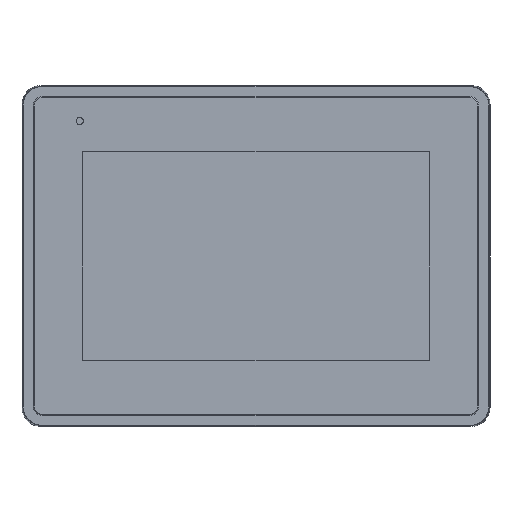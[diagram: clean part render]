
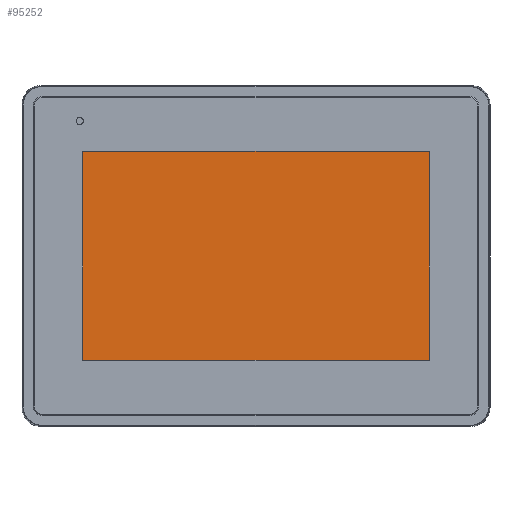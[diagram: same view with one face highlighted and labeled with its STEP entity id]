
A CAD part, top view. The second image highlights one B-rep face of the part: STEP entity #95252.
In plain terms, the highlighted planar face has unit normal (0, 0, 1).
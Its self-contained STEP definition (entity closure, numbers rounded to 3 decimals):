
#1083 = VECTOR ( 'NONE', #8097, 1000. ) ;
#2362 = ORIENTED_EDGE ( 'NONE', *, *, #33881, .T. ) ;
#5517 = ORIENTED_EDGE ( 'NONE', *, *, #108441, .T. ) ;
#6655 = CARTESIAN_POINT ( 'NONE',  ( 54.5, 32.9, 0.6 ) ) ;
#7762 = VERTEX_POINT ( 'NONE', #9843 ) ;
#8097 = DIRECTION ( 'NONE',  ( 0., 1., 0. ) ) ;
#9843 = CARTESIAN_POINT ( 'NONE',  ( 54.5, -32.9, 0.6 ) ) ;
#16624 = LINE ( 'NONE', #52448, #84540 ) ;
#16831 = EDGE_CURVE ( 'NONE', #91763, #103774, #110075, .T. ) ;
#21593 = EDGE_LOOP ( 'NONE', ( #87259, #5517, #68959, #2362 ) ) ;
#33602 = CARTESIAN_POINT ( 'NONE',  ( -611.997, -894.376, 0.6 ) ) ;
#33881 = EDGE_CURVE ( 'NONE', #103213, #91763, #16624, .T. ) ;
#45641 = DIRECTION ( 'NONE',  ( 1., 0., 0. ) ) ;
#52405 = PLANE ( 'NONE',  #69736 ) ;
#52448 = CARTESIAN_POINT ( 'NONE',  ( 54.5, 32.9, 0.6 ) ) ;
#53309 = CARTESIAN_POINT ( 'NONE',  ( -54.5, -32.9, 0.6 ) ) ;
#61240 = FACE_OUTER_BOUND ( 'NONE', #21593, .T. ) ;
#62708 = LINE ( 'NONE', #78555, #1083 ) ;
#63023 = DIRECTION ( 'NONE',  ( -1., 0., 0. ) ) ;
#63399 = CARTESIAN_POINT ( 'NONE',  ( -54.5, -32.9, 0.6 ) ) ;
#65548 = EDGE_CURVE ( 'NONE', #7762, #103213, #62708, .T. ) ;
#68959 = ORIENTED_EDGE ( 'NONE', *, *, #65548, .T. ) ;
#69736 = AXIS2_PLACEMENT_3D ( 'NONE', #33602, #70602, #98190 ) ;
#70602 = DIRECTION ( 'NONE',  ( 0., 0., 1. ) ) ;
#75007 = VECTOR ( 'NONE', #45641, 1000. ) ;
#78555 = CARTESIAN_POINT ( 'NONE',  ( 54.5, -32.9, 0.6 ) ) ;
#83629 = CARTESIAN_POINT ( 'NONE',  ( -54.5, 32.9, 0.6 ) ) ;
#84540 = VECTOR ( 'NONE', #63023, 1000. ) ;
#87259 = ORIENTED_EDGE ( 'NONE', *, *, #16831, .T. ) ;
#91763 = VERTEX_POINT ( 'NONE', #104274 ) ;
#95252 = ADVANCED_FACE ( 'NONE', ( #61240 ), #52405, .T. ) ;
#98190 = DIRECTION ( 'NONE',  ( 1., 0., 0. ) ) ;
#101849 = DIRECTION ( 'NONE',  ( 0., -1., 0. ) ) ;
#103213 = VERTEX_POINT ( 'NONE', #6655 ) ;
#103774 = VERTEX_POINT ( 'NONE', #63399 ) ;
#104274 = CARTESIAN_POINT ( 'NONE',  ( -54.5, 32.9, 0.6 ) ) ;
#107929 = LINE ( 'NONE', #53309, #75007 ) ;
#108441 = EDGE_CURVE ( 'NONE', #103774, #7762, #107929, .T. ) ;
#108578 = VECTOR ( 'NONE', #101849, 1000. ) ;
#110075 = LINE ( 'NONE', #83629, #108578 ) ;
